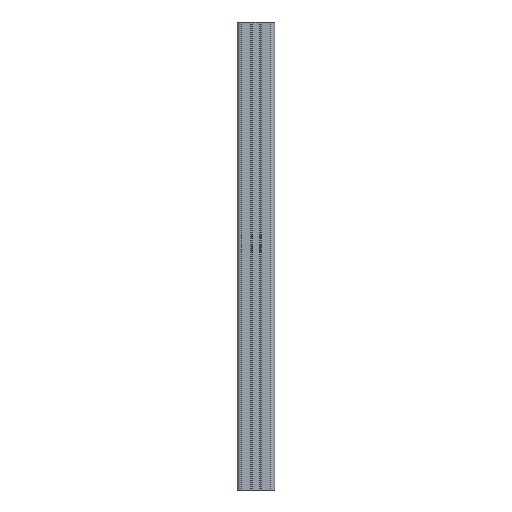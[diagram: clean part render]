
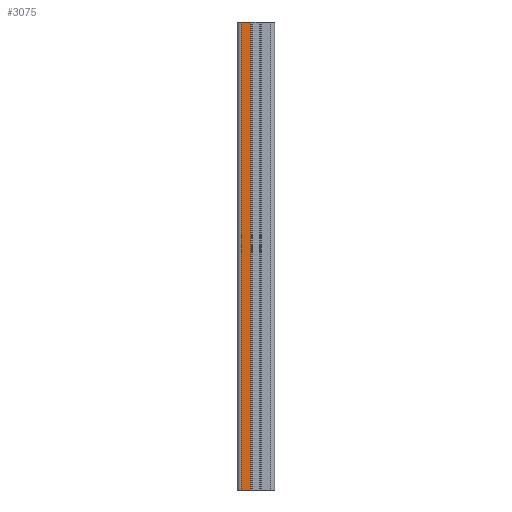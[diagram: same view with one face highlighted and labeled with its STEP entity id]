
A CAD part, left-side view. The second image highlights one B-rep face of the part: STEP entity #3075.
In plain terms, the highlighted planar face has unit normal (-1, 0, 0).
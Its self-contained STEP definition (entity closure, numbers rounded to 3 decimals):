
#75 = EDGE_CURVE ( 'NONE', #4695, #4006, #4823, .T. ) ;
#327 = VERTEX_POINT ( 'NONE', #5630 ) ;
#469 = VECTOR ( 'NONE', #3912, 1000. ) ;
#568 = EDGE_CURVE ( 'NONE', #4695, #1659, #3540, .T. ) ;
#720 = LINE ( 'NONE', #3908, #1191 ) ;
#904 = CARTESIAN_POINT ( 'NONE',  ( 2083.489, 1202.64, 0. ) ) ;
#1191 = VECTOR ( 'NONE', #3671, 1000. ) ;
#1237 = ORIENTED_EDGE ( 'NONE', *, *, #75, .T. ) ;
#1349 = CARTESIAN_POINT ( 'NONE',  ( 2083.489, 1202.64, 500. ) ) ;
#1659 = VERTEX_POINT ( 'NONE', #3588 ) ;
#1906 = ORIENTED_EDGE ( 'NONE', *, *, #4324, .F. ) ;
#1959 = FACE_OUTER_BOUND ( 'NONE', #4751, .T. ) ;
#2263 = DIRECTION ( 'NONE',  ( 1., 0., 0. ) ) ;
#2470 = CARTESIAN_POINT ( 'NONE',  ( 2083.489, 1212.74, 500. ) ) ;
#2653 = VECTOR ( 'NONE', #3388, 1000. ) ;
#2713 = DIRECTION ( 'NONE',  ( 0., -1., 0. ) ) ;
#3030 = ORIENTED_EDGE ( 'NONE', *, *, #5236, .T. ) ;
#3075 = ADVANCED_FACE ( 'NONE', ( #1959 ), #5365, .F. ) ;
#3234 = VECTOR ( 'NONE', #2713, 1000. ) ;
#3388 = DIRECTION ( 'NONE',  ( 0., -1., 0. ) ) ;
#3540 = LINE ( 'NONE', #1349, #3234 ) ;
#3588 = CARTESIAN_POINT ( 'NONE',  ( 2083.489, 1202.64, 500. ) ) ;
#3671 = DIRECTION ( 'NONE',  ( 0., 0., -1. ) ) ;
#3908 = CARTESIAN_POINT ( 'NONE',  ( 2083.489, 1202.64, 500. ) ) ;
#3912 = DIRECTION ( 'NONE',  ( 0., 0., -1. ) ) ;
#3974 = CARTESIAN_POINT ( 'NONE',  ( 2083.489, 1212.74, 500. ) ) ;
#4006 = VERTEX_POINT ( 'NONE', #4642 ) ;
#4324 = EDGE_CURVE ( 'NONE', #1659, #327, #720, .T. ) ;
#4575 = DIRECTION ( 'NONE',  ( 0., 0., -1. ) ) ;
#4642 = CARTESIAN_POINT ( 'NONE',  ( 2083.489, 1212.74, 0. ) ) ;
#4695 = VERTEX_POINT ( 'NONE', #3974 ) ;
#4751 = EDGE_LOOP ( 'NONE', ( #3030, #1906, #5544, #1237 ) ) ;
#4822 = LINE ( 'NONE', #904, #2653 ) ;
#4823 = LINE ( 'NONE', #2470, #469 ) ;
#4868 = CARTESIAN_POINT ( 'NONE',  ( 2083.489, 1202.64, 500. ) ) ;
#5070 = AXIS2_PLACEMENT_3D ( 'NONE', #4868, #2263, #4575 ) ;
#5236 = EDGE_CURVE ( 'NONE', #4006, #327, #4822, .T. ) ;
#5365 = PLANE ( 'NONE',  #5070 ) ;
#5544 = ORIENTED_EDGE ( 'NONE', *, *, #568, .F. ) ;
#5630 = CARTESIAN_POINT ( 'NONE',  ( 2083.489, 1202.64, 0. ) ) ;
